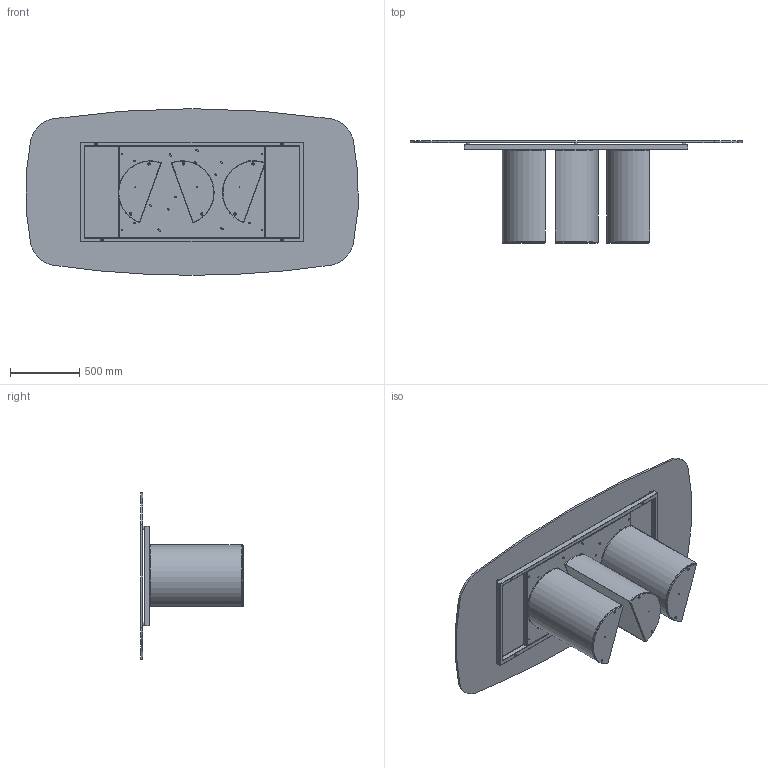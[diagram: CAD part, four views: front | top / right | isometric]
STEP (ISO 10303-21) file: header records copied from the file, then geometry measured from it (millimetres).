
FILE_DESCRIPTION (( 'STEP AP203' ), '1' );
FILE_NAME ('PL43G.STEP', '2024-08-07T13:55:16', ( '' ), ( '' ), 'SwSTEP 2.0', 'SolidWorks 2022', '' );
FILE_SCHEMA (( 'CONFIG_CONTROL_DESIGN' ));
Length unit declared in the file: millimetre
Products named in the file (14): TTAV0601_02-00-VASSOIO TAVOLI PLAI ONDA NOA 240; M8xXXmm_hex_M8X20mm; TTAV0601-00-TELAIO X TAVOLI PLAI ONDA NOA 240cm_TTAV06; COLLO TELAIO UNIVERSALE TTAV0601 CON FERRAMENTA_FERRAMENTA MTG TOP CRISTALLO VERNICIATO-CERAMICA; C4XCRXX-00-Piani Sagomati in Cristallo_2400 x 1200; TTAV0601_01-00-STRUTTURA X TAVOLI PLAI ONDA NOA 240; M8xXXmm_M8x20mm; Assieme Basamento PLAI_Basamento per tavoli; M8xXXmm_hex_M8X60mm; 434070-00-PIEDINO TPV GOMMA NERO D. 30x8max18_filo estetico; PLA000000ZOC-01-PLAI ZOCCOLO DELLA BASE; rondella M8_8X24; PLA000000BAS-00-PLAI BASE GREZZA; PL43G
Assembly tree (30 placements, depth 4):
  PL43G
    COLLO TELAIO UNIVERSALE TTAV0601 CON FERRAMENTA_FERRAMENTA MTG TOP CRISTALLO VERNICIATO-CERAMICA
      TTAV0601-00-TELAIO X TAVOLI PLAI ONDA NOA 240cm_TTAV06
        TTAV0601_02-00-VASSOIO TAVOLI PLAI ONDA NOA 240
        TTAV0601_01-00-STRUTTURA X TAVOLI PLAI ONDA NOA 240
      434070-00-PIEDINO TPV GOMMA NERO D. 30x8max18_filo estetico  x6
    Assieme Basamento PLAI_Basamento per tavoli  x3
      PLA000000BAS-00-PLAI BASE GREZZA
      PLA000000ZOC-01-PLAI ZOCCOLO DELLA BASE
      M8xXXmm_hex_M8X60mm
      M8xXXmm_hex_M8X20mm
    rondella M8_8X24  x6
    M8xXXmm_M8x20mm  x6
    C4XCRXX-00-Piani Sagomati in Cristallo_2400 x 1200
Bounding box: 2391.62 x 739 x 1200 mm (x, y, z)
Volume: 52586843.2 mm3; surface area: 14052928.4 mm2
Topology: 48 solids, 48 shells, 1117 faces, 2501 edges, 1462 vertices
Faces by surface type: plane 467, cylinder 334, cone 200, torus 108, sphere 8
Entity records: 18732 total; most frequent: DIRECTION 3108, CARTESIAN_POINT 2886, ORIENTED_EDGE 2726, EDGE_CURVE 1363, AXIS2_PLACEMENT_3D 1158, VERTEX_POINT 818, VECTOR 792, LINE 792
